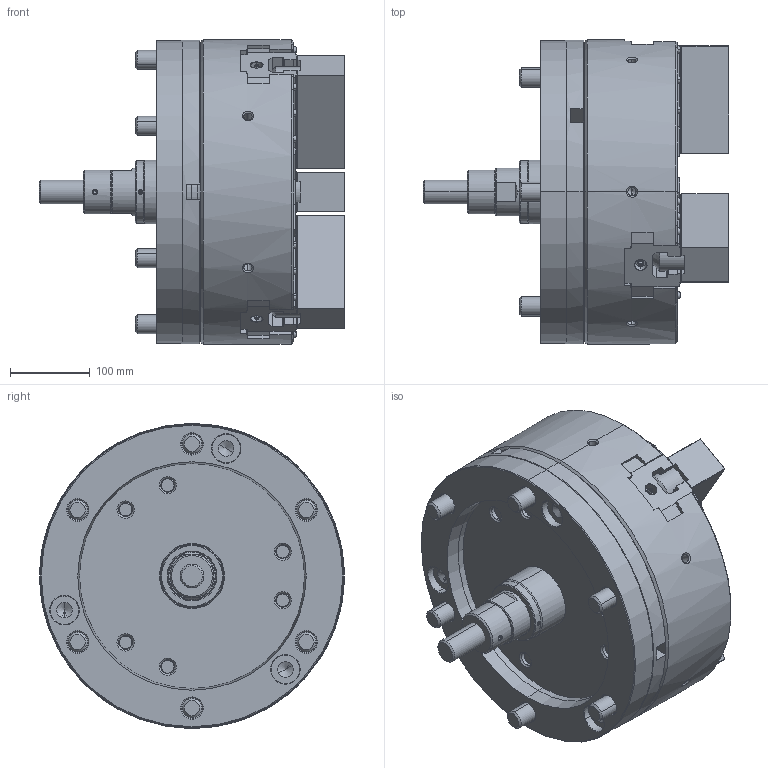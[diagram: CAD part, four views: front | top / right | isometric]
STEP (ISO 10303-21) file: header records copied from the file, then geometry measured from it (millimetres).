
FILE_DESCRIPTION (( 'STEP AP214' ), '1' );
FILE_NAME ('DT1_NV15C15_OUTSIDE_VIEW_OC.STEP', '2026-03-24T01:59:09', ( '' ), ( '' ), 'SwSTEP 2.0', 'SolidWorks 2022', '' );
FILE_SCHEMA (( 'AUTOMOTIVE_DESIGN' ));
Length unit declared in the file: millimetre
Products named in the file (18): DT1_NV15C15_M20x110^DT1_NV15C1500; DT1_NV15C15_M20x55^DT1_NV15C1500; DT1_NV15C15_S38^DT1_NV15C1500_円筒用; DT1_NV15C15_ORING^DT1_NV15C1500; DT1_NV15C15_TNUT^DT1_NV15C1500; DT1_NV15C15_P80^DT1_NV15C1500_円筒用; DT1_NV15C15_COVER^DT1_NV15C1500; DT1_NV15C15_DRAWSCREW^DT1_NV15C1500; DT1_NV15C15_OUTSIDE_VIEW_OC; DT1_NV15C15_BASE^DT1_NV15C1500; Copy of 61P321208^DT1_NV15C1500; DT1_NV15C15_M6x12^DT1_NV15C1500; DT1_NV15C15_SOFTJAW^DT1_NV15C1500; DT1_NV15C15_BP^DT1_NV15C1500; DT1_NV15C15_DN^DT1_NV15C1500; DT1_NV15C15_COVERFOOTER^DT1_NV15C1500; DT1_NV15C15_CAP^DT1_NV15C1500; DT1_NV15C15_S24^DT1_NV15C1500_円筒用
Assembly tree (46 placements, depth 2):
  DT1_NV15C15_OUTSIDE_VIEW_OC
    DT1_NV15C15_SOFTJAW^DT1_NV15C1500  x3
    DT1_NV15C15_TNUT^DT1_NV15C1500  x6
    DT1_NV15C15_COVER^DT1_NV15C1500
    DT1_NV15C15_DRAWSCREW^DT1_NV15C1500
    Copy of 61P321208^DT1_NV15C1500
    DT1_NV15C15_COVERFOOTER^DT1_NV15C1500
    DT1_NV15C15_DN^DT1_NV15C1500
    DT1_NV15C15_BP^DT1_NV15C1500
    DT1_NV15C15_BASE^DT1_NV15C1500
    DT1_NV15C15_M6x12^DT1_NV15C1500  x6
    DT1_NV15C15_M20x55^DT1_NV15C1500  x6
    DT1_NV15C15_M20x110^DT1_NV15C1500  x6
    DT1_NV15C15_S24^DT1_NV15C1500_円筒用
    DT1_NV15C15_S38^DT1_NV15C1500_円筒用
    DT1_NV15C15_P80^DT1_NV15C1500_円筒用
    DT1_NV15C15_CAP^DT1_NV15C1500  x6
    DT1_NV15C15_ORING^DT1_NV15C1500  x3
Bounding box: 382 x 381 x 381 mm (x, y, z)
Volume: 18647416.7 mm3; surface area: 1502186.7 mm2
Topology: 46 solids, 76 shells, 6782 faces, 18701 edges, 12062 vertices
Faces by surface type: plane 4413, cylinder 1185, cone 874, torus 166, bspline 138, sphere 6
Entity records: 173552 total; most frequent: CARTESIAN_POINT 45467, ORIENTED_EDGE 27874, DIRECTION 23849, EDGE_CURVE 13937, LINE 9571, VECTOR 9571, VERTEX_POINT 9058, AXIS2_PLACEMENT_3D 7139
